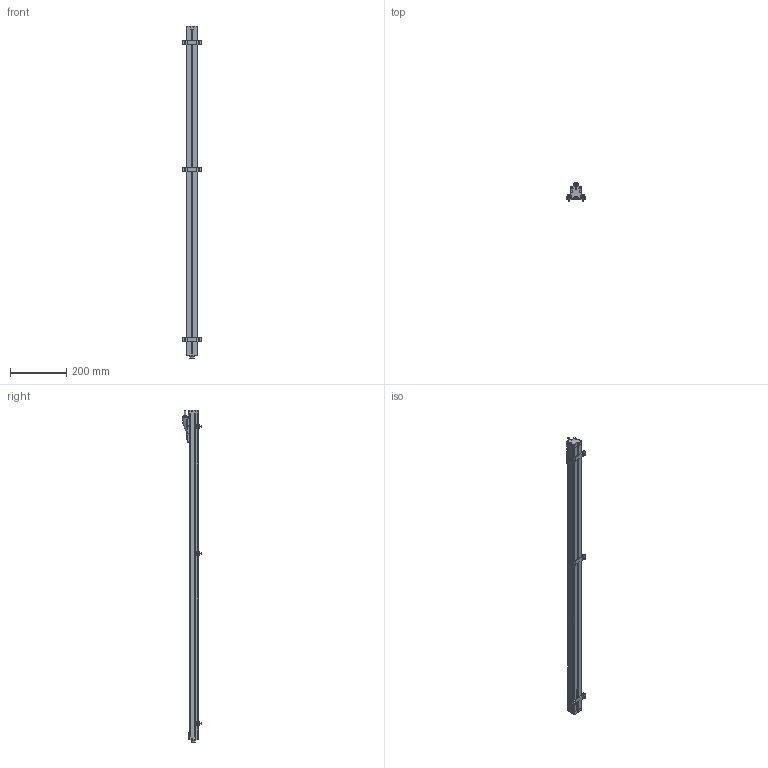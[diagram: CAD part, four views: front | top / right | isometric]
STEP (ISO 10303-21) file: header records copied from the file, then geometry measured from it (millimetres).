
FILE_DESCRIPTION(('STEP AP214'),'1');
FILE_NAME('burster_8718-1000_3v0abwoj6p1vi43g3u3nyrmds.stp','2017-04-18T16:24:00',('TraceParts'),('TraceParts S.A.'),'Spatial InterOp 3D',' ',' ');
FILE_SCHEMA(('automotive_design'));
Length unit declared in the file: millimetre
Products named in the file (1): burster_8718-1000_3v0abwoj6p1vi43g3u3nyrmds
Bounding box: 68 x 67.8 x 1176 mm (x, y, z)
Volume: 1380847.2 mm3; surface area: 246750.6 mm2
Topology: 1 solids, 2 shells, 753 faces, 2140 edges, 1374 vertices
Faces by surface type: plane 394, cylinder 255, cone 40, torus 36, bspline 18, sphere 10
Entity records: 32367 total; most frequent: CARTESIAN_POINT 6481, ORIENTED_EDGE 4216, DIRECTION 4189, EDGE_CURVE 2108, AXIS2_PLACEMENT_3D 1434, VERTEX_POINT 1374, LINE 1321, VECTOR 1321
